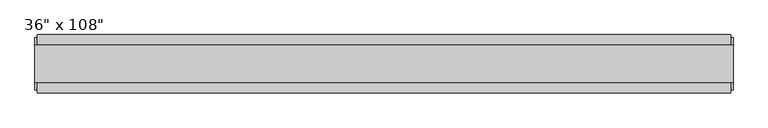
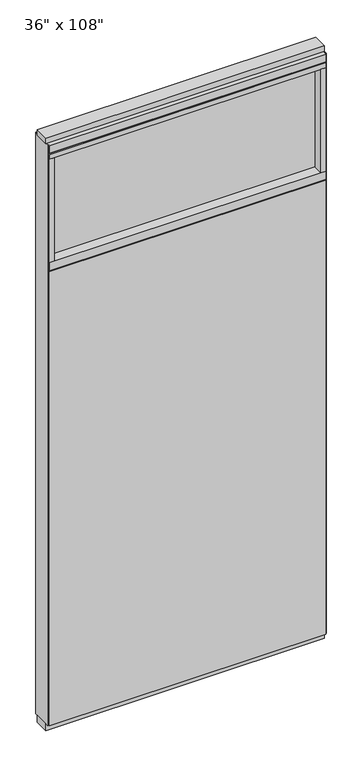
"""IFC4 building model written with IfcOpenShell, lengths in millimetres: furniture geometry."""

from ifc_helpers import new_model, si_unit, frame, origin, origin_with_axes, place, context, project, spatial, polyline, outline, extrude, source, transform, mapped, element, save


def furniture_14a34abc(model_context):
    return source(origin(), model_context, "Body", "SweptSolid", [
        extrude(outline(polyline([(545.6264771, -46.2822784), (-665.6995229, -46.2822784), (-665.6995229, -33.5822784), (545.6264771, -33.5822784), (545.6264771, -46.2822784)])), frame((0.0, 0.0, 31.75), z_axis=(0.0, 0.0, 1.0), x_axis=(1.0, 0.0, 0.0)), (0.0, 0.0, 1.0), 2101.85),
        extrude(outline(polyline([(545.6264771, 55.3177216), (545.6264771, 42.6177216), (-665.6995229, 42.6177216), (-665.6995229, 55.3177216), (545.6264771, 55.3177216)])), frame((0.0, 0.0, 31.75), z_axis=(0.0, 0.0, 1.0), x_axis=(1.0, 0.0, 0.0)), (0.0, 0.0, 1.0), 2101.85),
        extrude(outline(polyline([(523.4014771, 9.5977216), (523.4014771, -0.5622784), (-643.4745229, -0.5622784), (-643.4745229, 9.5977216), (523.4014771, 9.5977216)])), frame((0.0, 0.0, 2174.875), z_axis=(0.0, 0.0, 1.0), x_axis=(1.0, 0.0, 0.0)), (0.0, 0.0, 1.0), 479.425),
        extrude(outline(polyline([(523.4014771, 55.3177216), (545.6264771, 55.3177216), (545.6264771, -46.2822784), (523.4014771, -46.2822784), (523.4014771, 55.3177216)])), frame((0.0, 0.0, 2174.875), z_axis=(0.0, 0.0, 1.0), x_axis=(1.0, 0.0, 0.0)), (0.0, 0.0, 1.0), 479.425),
        extrude(outline(polyline([(55.3177216, 2138.553), (50.3647216, 2138.553), (50.3647216, 2133.6), (-41.3292784, 2133.6), (-41.3292784, 2138.553), (-46.2822784, 2138.553), (-46.2822784, 2174.875), (55.3177216, 2174.875), (55.3177216, 2138.553)])), frame((-665.6995229, 0.0, 0.0), z_axis=(1.0, 0.0, 0.0), x_axis=(0.0, 1.0, 0.0)), (0.0, 0.0, 1.0), 1211.326),
        extrude(outline(polyline([(-643.4745229, 55.3177216), (-643.4745229, -46.2822784), (-665.6995229, -46.2822784), (-665.6995229, 55.3177216), (-643.4745229, 55.3177216)])), frame((0.0, 0.0, 2174.875), z_axis=(0.0, 0.0, 1.0), x_axis=(1.0, 0.0, 0.0)), (0.0, 0.0, 1.0), 479.425),
        extrude(outline(polyline([(549.5634771, -27.9942784), (-669.6365229, -27.9942784), (-669.6365229, 37.0297216), (549.5634771, 37.0297216), (549.5634771, -27.9942784)])), origin_with_axes(), (0.0, 0.0, 1.0), 31.75),
        extrude(outline(polyline([(-669.6365229, 37.0297216), (549.5634771, 37.0297216), (549.5634771, -27.9942784), (-669.6365229, -27.9942784), (-669.6365229, 37.0297216)])), frame((0.0, 0.0, 2717.8), z_axis=(0.0, 0.0, 1.0), x_axis=(1.0, 0.0, 0.0)), (0.0, 0.0, 1.0), 25.4),
        extrude(outline(polyline([(55.3177216, 2681.478), (50.3647216, 2681.478), (50.3647216, 2676.525), (-41.3292784, 2676.525), (-41.3292784, 2681.478), (-46.2822784, 2681.478), (-46.2822784, 2717.8), (55.3177216, 2717.8), (55.3177216, 2681.478)])), frame((-665.6995229, 0.0, 0.0), z_axis=(1.0, 0.0, 0.0), x_axis=(0.0, 1.0, 0.0)), (0.0, 0.0, 1.0), 1211.326),
        extrude(outline(polyline([(545.6264771, -46.2822784), (-665.6995229, -46.2822784), (-665.6995229, 55.3177216), (545.6264771, 55.3177216), (545.6264771, -46.2822784)])), frame((0.0, 0.0, 2654.3), z_axis=(0.0, 0.0, 1.0), x_axis=(1.0, 0.0, 0.0)), (0.0, 0.0, 1.0), 22.225),
        extrude(outline(polyline([(549.5634771, 50.3647216), (549.5634771, -41.3292784), (545.6264771, -41.3292784), (545.6264771, 50.3647216), (549.5634771, 50.3647216)])), frame((0.0, 0.0, 31.75), z_axis=(0.0, 0.0, 1.0), x_axis=(1.0, 0.0, 0.0)), (0.0, 0.0, 1.0), 2686.05),
        extrude(outline(polyline([(-669.6365229, 50.3647216), (-665.6995229, 50.3647216), (-665.6995229, -41.3292784), (-669.6365229, -41.3292784), (-669.6365229, 50.3647216)])), frame((0.0, 0.0, 31.75), z_axis=(0.0, 0.0, 1.0), x_axis=(1.0, 0.0, 0.0)), (0.0, 0.0, 1.0), 2686.05),
    ])


if __name__ == "__main__":
    model = new_model("IFC4")
    model_context = context("Model", 3, world=origin())
    ifc_project = project(units=[si_unit("LENGTHUNIT", "METRE", prefix="MILLI")], contexts=[model_context])
    site = spatial("IfcSite", under=ifc_project)
    building = spatial("IfcBuilding", under=site)
    placement = place(None, origin())
    furniture_shape = furniture_14a34abc(model_context)
    element("IfcFurniture", 1, ObjectType="Haworth_Enclose_Wall_SolidTransom : 36\" x 108\"", at=placement, inside=building, context=model_context, shape_type="MappedRepresentation", body=[
        mapped(furniture_shape, transform((0.0, 0.0, 0.0), x_axis=(1.0, 0.0, 0.0), y_axis=(0.0, 1.0, 0.0), z_axis=(0.0, 0.0, 1.0))),
    ])
    save(model, "model.ifc")
